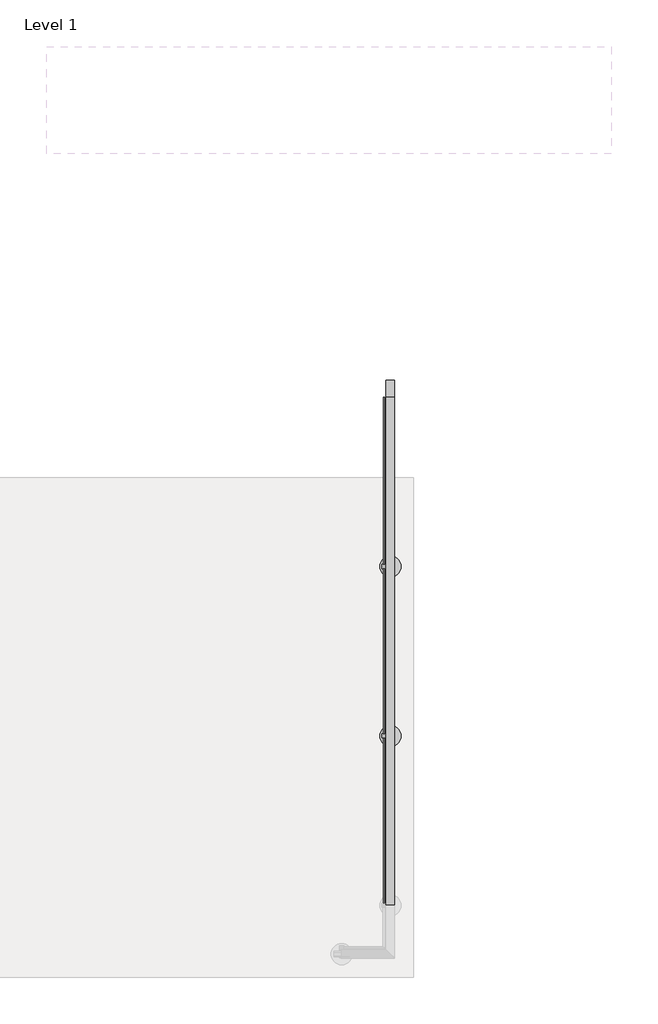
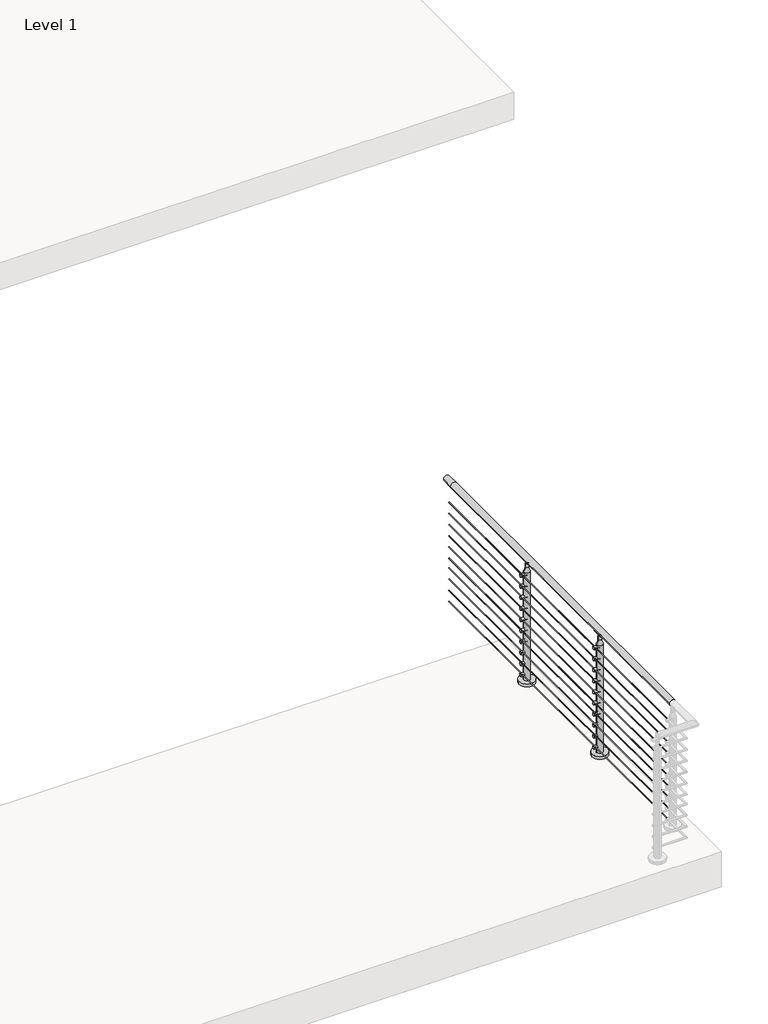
# One storey, part 9 of 21: 1 railing.
"""IFC4 building model written with IfcOpenShell, lengths in millimetres."""

from ifc_helpers import new_model, si_unit, point, frame, frame_2d, origin, origin_with_axes, place, context, project, spatial, polyline, circle_curve, ellipse_curve, trimmed, segment, composite_curve, outline, extrude, element, save
from ifc_brep_helpers import plane_surface, cylinder_surface, revolved_surface, advanced_brep

model = new_model("IFC4")

# Units and contexts
model_context = context("Model", 3, world=origin())
ifc_project = project(units=[si_unit("LENGTHUNIT", "METRE", prefix="MILLI")], contexts=[model_context])

# Site, building, storey
site = spatial("IfcSite", under=ifc_project)
building = spatial("IfcBuilding", under=site)
storey = spatial("IfcBuildingStorey", under=building, Name="Level 1", Elevation=0.0)

# Railing
placement = place(None, origin())
element("IfcRailing", 1, ObjectType="VIVA-CIRCA-Multiline-Cable-Core Mount-Straight", at=placement, inside=storey, context=model_context, shape_type="SolidModel", body=[
    advanced_brep(
    [(69909.4592968, -73352.7943064, 1054.1), (69858.6592968, -73352.7943064, 1054.1), (69909.4592968, -70304.7943064, 1054.1), (69858.6592968, -70304.7943064, 1054.1), (69909.4592968, -70203.1943064, 1054.1), (69858.6592968, -70203.1943064, 1054.1)],
    [
        (0, 1, circle_curve(frame((69884.0592968, -73352.7943064, 1054.1), z_axis=(0.0, -1.0, 0.0), x_axis=(-1.0, 0.0, 0.0)), 25.4)),
        (1, 0, circle_curve(frame((69884.0592968, -73352.7943064, 1054.1), z_axis=(0.0, -1.0, 0.0), x_axis=(-1.0, 0.0, 0.0)), 25.4)),
        (0, 2),
        (2, 3, circle_curve(frame((69884.0592968, -70304.7943064, 1054.1), z_axis=(0.0, -1.0, 0.0), x_axis=(-1.0, 0.0, 0.0)), 25.4)),
        (3, 1),
        (3, 2, circle_curve(frame((69884.0592968, -70304.7943064, 1054.1), z_axis=(0.0, -1.0, 0.0), x_axis=(-1.0, 0.0, 0.0)), 25.4)),
        (4, 5, circle_curve(frame((69884.0592968, -70203.1943064, 1054.1), z_axis=(0.0, 1.0, 0.0), x_axis=(-1.0, 0.0, 0.0)), 25.4)),
        (5, 4, circle_curve(frame((69884.0592968, -70203.1943064, 1054.1), z_axis=(0.0, 1.0, 0.0), x_axis=(-1.0, 0.0, 0.0)), 25.4)),
        (2, 4),
        (5, 3),
    ],
    [
        plane_surface(frame((69884.0592968, -73352.7943064, 1079.5), z_axis=(0.0, -1.0, 0.0), x_axis=(0.0, 0.0, 1.0))),
        cylinder_surface(frame((69884.0592968, -73352.7943064, 1054.1), z_axis=(0.0, -1.0, 0.0), x_axis=(-1.0, 0.0, 0.0)), 25.4),
        plane_surface(frame((69884.0592968, -70203.1943064, 1079.5), z_axis=(0.0, 1.0, 0.0), x_axis=(0.0, 0.0, 1.0))),
        cylinder_surface(frame((69884.0592968, -70304.7943064, 1054.1), z_axis=(0.0, -1.0, 0.0), x_axis=(-1.0, 0.0, 0.0)), 25.4),
    ],
    [
        (0, [[1, 2]]),
        (1, [[-1, 3, 4, 5]]),
        (1, [[-2, -5, 6, -3]]),
        (2, [[7, 8]]),
        (3, [[-4, 9, -8, 10]]),
        (3, [[-6, -10, -7, -9]]),
    ],
),
    extrude(outline(composite_curve([segment(trimmed(circle_curve(frame_2d((924.7124, 69845.9592968)), 2.3876), [point((924.7124, 69843.5716968))], [point((924.7124, 69848.3468968))], False, "CARTESIAN"), True, "CONTINUOUS"), segment(trimmed(circle_curve(frame_2d((924.7124, 69845.9592968)), 2.3876), [point((924.7124, 69848.3468968))], [point((924.7124, 69843.5716968))], False, "CARTESIAN"), True, "CONTINUOUS")], self_intersect=False)), frame((0.0, -73352.7943064, 0.0), z_axis=(0.0, 1.0, 0.0), x_axis=(0.0, 0.0, 1.0)), (0.0, 0.0, 1.0), 3048.0),
    extrude(outline(composite_curve([segment(trimmed(circle_curve(frame_2d((829.4624, 69845.9592968)), 2.3876), [point((829.4624, 69843.5716968))], [point((829.4624, 69848.3468968))], False, "CARTESIAN"), True, "CONTINUOUS"), segment(trimmed(circle_curve(frame_2d((829.4624, 69845.9592968)), 2.3876), [point((829.4624, 69848.3468968))], [point((829.4624, 69843.5716968))], False, "CARTESIAN"), True, "CONTINUOUS")], self_intersect=False)), frame((0.0, -73352.7943064, 0.0), z_axis=(0.0, 1.0, 0.0), x_axis=(0.0, 0.0, 1.0)), (0.0, 0.0, 1.0), 3048.0),
    extrude(outline(composite_curve([segment(trimmed(circle_curve(frame_2d((734.2124, 69845.9592968)), 2.3876), [point((734.2124, 69843.5716968))], [point((734.2124, 69848.3468968))], False, "CARTESIAN"), True, "CONTINUOUS"), segment(trimmed(circle_curve(frame_2d((734.2124, 69845.9592968)), 2.3876), [point((734.2124, 69848.3468968))], [point((734.2124, 69843.5716968))], False, "CARTESIAN"), True, "CONTINUOUS")], self_intersect=False)), frame((0.0, -73352.7943064, 0.0), z_axis=(0.0, 1.0, 0.0), x_axis=(0.0, 0.0, 1.0)), (0.0, 0.0, 1.0), 3048.0),
    extrude(outline(composite_curve([segment(trimmed(circle_curve(frame_2d((638.9624, 69845.9592968)), 2.3876), [point((638.9624, 69843.5716968))], [point((638.9624, 69848.3468968))], False, "CARTESIAN"), True, "CONTINUOUS"), segment(trimmed(circle_curve(frame_2d((638.9624, 69845.9592968)), 2.3876), [point((638.9624, 69848.3468968))], [point((638.9624, 69843.5716968))], False, "CARTESIAN"), True, "CONTINUOUS")], self_intersect=False)), frame((0.0, -73352.7943064, 0.0), z_axis=(0.0, 1.0, 0.0), x_axis=(0.0, 0.0, 1.0)), (0.0, 0.0, 1.0), 3048.0),
    extrude(outline(composite_curve([segment(trimmed(circle_curve(frame_2d((543.7124, 69845.9592968)), 2.3876), [point((543.7124, 69843.5716968))], [point((543.7124, 69848.3468968))], False, "CARTESIAN"), True, "CONTINUOUS"), segment(trimmed(circle_curve(frame_2d((543.7124, 69845.9592968)), 2.3876), [point((543.7124, 69848.3468968))], [point((543.7124, 69843.5716968))], False, "CARTESIAN"), True, "CONTINUOUS")], self_intersect=False)), frame((0.0, -73352.7943064, 0.0), z_axis=(0.0, 1.0, 0.0), x_axis=(0.0, 0.0, 1.0)), (0.0, 0.0, 1.0), 3048.0),
    extrude(outline(composite_curve([segment(trimmed(circle_curve(frame_2d((448.4624, 69845.9592968)), 2.3876), [point((448.4624, 69843.5716968))], [point((448.4624, 69848.3468968))], False, "CARTESIAN"), True, "CONTINUOUS"), segment(trimmed(circle_curve(frame_2d((448.4624, 69845.9592968)), 2.3876), [point((448.4624, 69848.3468968))], [point((448.4624, 69843.5716968))], False, "CARTESIAN"), True, "CONTINUOUS")], self_intersect=False)), frame((0.0, -73352.7943064, 0.0), z_axis=(0.0, 1.0, 0.0), x_axis=(0.0, 0.0, 1.0)), (0.0, 0.0, 1.0), 3048.0),
    extrude(outline(composite_curve([segment(trimmed(circle_curve(frame_2d((365.9124, 69845.9592968)), 2.3876), [point((365.9124, 69843.5716968))], [point((365.9124, 69848.3468968))], False, "CARTESIAN"), True, "CONTINUOUS"), segment(trimmed(circle_curve(frame_2d((365.9124, 69845.9592968)), 2.3876), [point((365.9124, 69848.3468968))], [point((365.9124, 69843.5716968))], False, "CARTESIAN"), True, "CONTINUOUS")], self_intersect=False)), frame((0.0, -73352.7943064, 0.0), z_axis=(0.0, 1.0, 0.0), x_axis=(0.0, 0.0, 1.0)), (0.0, 0.0, 1.0), 3048.0),
    extrude(outline(composite_curve([segment(trimmed(circle_curve(frame_2d((270.6624, 69845.9592968)), 2.3876), [point((270.6624, 69843.5716968))], [point((270.6624, 69848.3468968))], False, "CARTESIAN"), True, "CONTINUOUS"), segment(trimmed(circle_curve(frame_2d((270.6624, 69845.9592968)), 2.3876), [point((270.6624, 69848.3468968))], [point((270.6624, 69843.5716968))], False, "CARTESIAN"), True, "CONTINUOUS")], self_intersect=False)), frame((0.0, -73352.7943064, 0.0), z_axis=(0.0, 1.0, 0.0), x_axis=(0.0, 0.0, 1.0)), (0.0, 0.0, 1.0), 3048.0),
    extrude(outline(composite_curve([segment(trimmed(circle_curve(frame_2d((175.4124, 69845.9592968)), 2.3876), [point((175.4124, 69843.5716968))], [point((175.4124, 69848.3468968))], False, "CARTESIAN"), True, "CONTINUOUS"), segment(trimmed(circle_curve(frame_2d((175.4124, 69845.9592968)), 2.3876), [point((175.4124, 69848.3468968))], [point((175.4124, 69843.5716968))], False, "CARTESIAN"), True, "CONTINUOUS")], self_intersect=False)), frame((0.0, -73352.7943064, 0.0), z_axis=(0.0, 1.0, 0.0), x_axis=(0.0, 0.0, 1.0)), (0.0, 0.0, 1.0), 3048.0),
    extrude(outline(composite_curve([segment(trimmed(circle_curve(frame_2d((80.1624, 69845.9592968)), 2.3876), [point((80.1624, 69843.5716968))], [point((80.1624, 69848.3468968))], False, "CARTESIAN"), True, "CONTINUOUS"), segment(trimmed(circle_curve(frame_2d((80.1624, 69845.9592968)), 2.3876), [point((80.1624, 69848.3468968))], [point((80.1624, 69843.5716968))], False, "CARTESIAN"), True, "CONTINUOUS")], self_intersect=False)), frame((0.0, -73352.7943064, 0.0), z_axis=(0.0, 1.0, 0.0), x_axis=(0.0, 0.0, 1.0)), (0.0, 0.0, 1.0), 3048.0),
    extrude(outline(composite_curve([segment(trimmed(circle_curve(frame_2d((69884.0592968, -71320.3974314)), 63.5), [point((69947.5592968, -71320.3974314))], [point((69820.5592968, -71320.3974314))], False, "CARTESIAN"), True, "CONTINUOUS"), segment(trimmed(circle_curve(frame_2d((69884.0592968, -71320.3974314)), 63.5), [point((69820.5592968, -71320.3974314))], [point((69947.5592968, -71320.3974314))], False, "CARTESIAN"), True, "CONTINUOUS")], self_intersect=False)), origin_with_axes(), (0.0, 0.0, 1.0), 25.4),
    extrude(outline(composite_curve([segment(trimmed(circle_curve(frame_2d((-71320.0005564, 76.2)), 12.666458), [point((-71307.3340985, 76.2))], [point((-71332.6670144, 76.2))], False, "CARTESIAN"), True, "CONTINUOUS"), segment(trimmed(circle_curve(frame_2d((-71320.0005564, 76.2)), 12.666458), [point((-71332.6670144, 76.2))], [point((-71307.3340985, 76.2))], False, "CARTESIAN"), True, "CONTINUOUS")], self_intersect=False)), frame((69833.2592968, 0.0, 0.0), z_axis=(1.0, 0.0, 0.0), x_axis=(0.0, 1.0, 0.0)), (0.0, 0.0, 1.0), 50.8),
    extrude(outline(composite_curve([segment(trimmed(circle_curve(frame_2d((-71320.0005564, 170.0388889)), 12.666458), [point((-71307.3340985, 170.0388889))], [point((-71332.6670144, 170.0388889))], False, "CARTESIAN"), True, "CONTINUOUS"), segment(trimmed(circle_curve(frame_2d((-71320.0005564, 170.0388889)), 12.666458), [point((-71332.6670144, 170.0388889))], [point((-71307.3340985, 170.0388889))], False, "CARTESIAN"), True, "CONTINUOUS")], self_intersect=False)), frame((69833.2592968, 0.0, 0.0), z_axis=(1.0, 0.0, 0.0), x_axis=(0.0, 1.0, 0.0)), (0.0, 0.0, 1.0), 50.8),
    extrude(outline(composite_curve([segment(trimmed(circle_curve(frame_2d((-71320.0005564, 263.8777778)), 12.666458), [point((-71307.3340985, 263.8777778))], [point((-71332.6670144, 263.8777778))], False, "CARTESIAN"), True, "CONTINUOUS"), segment(trimmed(circle_curve(frame_2d((-71320.0005564, 263.8777778)), 12.666458), [point((-71332.6670144, 263.8777778))], [point((-71307.3340985, 263.8777778))], False, "CARTESIAN"), True, "CONTINUOUS")], self_intersect=False)), frame((69833.2592968, 0.0, 0.0), z_axis=(1.0, 0.0, 0.0), x_axis=(0.0, 1.0, 0.0)), (0.0, 0.0, 1.0), 50.8),
    extrude(outline(composite_curve([segment(trimmed(circle_curve(frame_2d((-71320.0005564, 357.7166667)), 12.666458), [point((-71307.3340985, 357.7166667))], [point((-71332.6670144, 357.7166667))], False, "CARTESIAN"), True, "CONTINUOUS"), segment(trimmed(circle_curve(frame_2d((-71320.0005564, 357.7166667)), 12.666458), [point((-71332.6670144, 357.7166667))], [point((-71307.3340985, 357.7166667))], False, "CARTESIAN"), True, "CONTINUOUS")], self_intersect=False)), frame((69833.2592968, 0.0, 0.0), z_axis=(1.0, 0.0, 0.0), x_axis=(0.0, 1.0, 0.0)), (0.0, 0.0, 1.0), 50.8),
    extrude(outline(composite_curve([segment(trimmed(circle_curve(frame_2d((-71320.0005564, 451.5555556)), 12.666458), [point((-71307.3340985, 451.5555556))], [point((-71332.6670144, 451.5555556))], False, "CARTESIAN"), True, "CONTINUOUS"), segment(trimmed(circle_curve(frame_2d((-71320.0005564, 451.5555556)), 12.666458), [point((-71332.6670144, 451.5555556))], [point((-71307.3340985, 451.5555556))], False, "CARTESIAN"), True, "CONTINUOUS")], self_intersect=False)), frame((69833.2592968, 0.0, 0.0), z_axis=(1.0, 0.0, 0.0), x_axis=(0.0, 1.0, 0.0)), (0.0, 0.0, 1.0), 50.8),
    extrude(outline(composite_curve([segment(trimmed(circle_curve(frame_2d((-71320.0005564, 545.3944444)), 12.666458), [point((-71307.3340985, 545.3944444))], [point((-71332.6670144, 545.3944444))], False, "CARTESIAN"), True, "CONTINUOUS"), segment(trimmed(circle_curve(frame_2d((-71320.0005564, 545.3944444)), 12.666458), [point((-71332.6670144, 545.3944444))], [point((-71307.3340985, 545.3944444))], False, "CARTESIAN"), True, "CONTINUOUS")], self_intersect=False)), frame((69833.2592968, 0.0, 0.0), z_axis=(1.0, 0.0, 0.0), x_axis=(0.0, 1.0, 0.0)), (0.0, 0.0, 1.0), 50.8),
    extrude(outline(composite_curve([segment(trimmed(circle_curve(frame_2d((-71320.0005564, 639.2333333)), 12.666458), [point((-71307.3340985, 639.2333333))], [point((-71332.6670144, 639.2333333))], False, "CARTESIAN"), True, "CONTINUOUS"), segment(trimmed(circle_curve(frame_2d((-71320.0005564, 639.2333333)), 12.666458), [point((-71332.6670144, 639.2333333))], [point((-71307.3340985, 639.2333333))], False, "CARTESIAN"), True, "CONTINUOUS")], self_intersect=False)), frame((69833.2592968, 0.0, 0.0), z_axis=(1.0, 0.0, 0.0), x_axis=(0.0, 1.0, 0.0)), (0.0, 0.0, 1.0), 50.8),
    extrude(outline(composite_curve([segment(trimmed(circle_curve(frame_2d((-71320.0005564, 733.0722222)), 12.666458), [point((-71307.3340985, 733.0722222))], [point((-71332.6670144, 733.0722222))], False, "CARTESIAN"), True, "CONTINUOUS"), segment(trimmed(circle_curve(frame_2d((-71320.0005564, 733.0722222)), 12.666458), [point((-71332.6670144, 733.0722222))], [point((-71307.3340985, 733.0722222))], False, "CARTESIAN"), True, "CONTINUOUS")], self_intersect=False)), frame((69833.2592968, 0.0, 0.0), z_axis=(1.0, 0.0, 0.0), x_axis=(0.0, 1.0, 0.0)), (0.0, 0.0, 1.0), 50.8),
    extrude(outline(composite_curve([segment(trimmed(circle_curve(frame_2d((-71320.0005564, 920.75)), 12.666458), [point((-71307.3340985, 920.75))], [point((-71332.6670144, 920.75))], False, "CARTESIAN"), True, "CONTINUOUS"), segment(trimmed(circle_curve(frame_2d((-71320.0005564, 920.75)), 12.666458), [point((-71332.6670144, 920.75))], [point((-71307.3340985, 920.75))], False, "CARTESIAN"), True, "CONTINUOUS")], self_intersect=False)), frame((69833.2592968, 0.0, 0.0), z_axis=(1.0, 0.0, 0.0), x_axis=(0.0, 1.0, 0.0)), (0.0, 0.0, 1.0), 50.8),
    extrude(outline(composite_curve([segment(trimmed(circle_curve(frame_2d((-71320.0005564, 826.9111111)), 12.666458), [point((-71307.3340985, 826.9111111))], [point((-71332.6670144, 826.9111111))], False, "CARTESIAN"), True, "CONTINUOUS"), segment(trimmed(circle_curve(frame_2d((-71320.0005564, 826.9111111)), 12.666458), [point((-71332.6670144, 826.9111111))], [point((-71307.3340985, 826.9111111))], False, "CARTESIAN"), True, "CONTINUOUS")], self_intersect=False)), frame((69833.2592968, 0.0, 0.0), z_axis=(1.0, 0.0, 0.0), x_axis=(0.0, 1.0, 0.0)), (0.0, 0.0, 1.0), 50.8),
    extrude(outline(composite_curve([segment(trimmed(circle_curve(frame_2d((1055.4254922, 69883.9625684)), 25.4345159), [point((1033.3106679, 69896.5263713))], [point((1033.2157471, 69871.5673346))], True, "CARTESIAN"), True, "CONTINUOUS"), segment(trimmed(circle_curve(frame_2d((1030.7132623, 69870.3226815)), 2.7949225), [point((1033.2157471, 69871.5673346))], [point((1028.3406769, 69868.8453764))], False, "CARTESIAN"), True, "CONTINUOUS"), segment(trimmed(circle_curve(frame_2d((1056.1881188, 69884.0960315)), 31.75), [point((1028.3406769, 69868.8453764))], [point((1028.9214354, 69900.3622687))], False, "CARTESIAN"), True, "CONTINUOUS"), segment(trimmed(circle_curve(frame_2d((1030.7923545, 69898.073929)), 2.9558141), [point((1028.9214354, 69900.3622687))], [point((1033.3106679, 69896.5263713))], False, "CARTESIAN"), True, "CONTINUOUS")], self_intersect=False)), frame((0.0, -71365.6348314, 0.0), z_axis=(0.0, 1.0, 0.0), x_axis=(0.0, 0.0, 1.0)), (0.0, 0.0, 1.0), 90.4748),
    extrude(outline(composite_curve([segment(trimmed(circle_curve(frame_2d((-71293.3295165, 1010.282776)), 14.3679149), [point((-71293.3295165, 1024.6506908))], [point((-71307.6974314, 1010.282776))], True, "CARTESIAN"), True, "CONTINUOUS"), segment(trimmed(circle_curve(frame_2d((-71320.3974314, 1010.282776)), 12.7), [point((-71307.6974314, 1010.282776))], [point((-71333.0974314, 1010.282776))], False, "CARTESIAN"), True, "CONTINUOUS"), segment(trimmed(circle_curve(frame_2d((-71347.4653463, 1010.282776)), 14.3679149), [point((-71333.0974314, 1010.282776))], [point((-71347.4653463, 1024.6506908))], True, "CARTESIAN"), True, "CONTINUOUS"), segment(polyline([(-71347.4653463, 1024.6506908), (-71293.3295165, 1024.6506908)]), True, "CONTINUOUS")], self_intersect=False)), frame((69881.5192968, 0.0, 0.0), z_axis=(1.0, 0.0, 0.0), x_axis=(0.0, 1.0, 0.0)), (0.0, 0.0, 1.0), 5.08),
    advanced_brep(
    [(69909.4586946, -71320.3974314, 941.1347854), (69858.659899, -71320.3974314, 941.1347854), (69858.659899, -71320.3974314, -88.9), (69909.4586946, -71320.3974314, -88.9), (69896.7972653, -71320.3974314, 979.3486202), (69871.3213282, -71320.3974314, 979.3486202), (69896.7972653, -71320.3974314, 1008.5779599), (69871.3213282, -71320.3974314, 1008.5779599), (69884.0592968, -71320.3974314, 1015.238668), (69884.0592968, -71320.3974314, -88.9)],
    [
        (0, 1, circle_curve(frame((69884.0592968, -71320.3974314, 941.1347854), z_axis=(0.0, 0.0, -1.0), x_axis=(-1.0, 0.0, 0.0)), 25.3993978)),
        (1, 2),
        (2, 3, circle_curve(frame((69884.0592968, -71320.3974314, -88.9), z_axis=(0.0, 0.0, 1.0), x_axis=(-1.0, 0.0, 0.0)), 25.3993978)),
        (3, 0),
        (1, 0, circle_curve(frame((69884.0592968, -71320.3974314, 941.1347854), z_axis=(0.0, 0.0, -1.0), x_axis=(-1.0, 0.0, 0.0)), 25.3993978)),
        (3, 2, circle_curve(frame((69884.0592968, -71320.3974314, -88.9), z_axis=(0.0, 0.0, 1.0), x_axis=(-1.0, 0.0, 0.0)), 25.3993978)),
        (4, 5, circle_curve(frame((69884.0592968, -71320.3974314, 979.3486202), z_axis=(0.0, 0.0, -1.0), x_axis=(-1.0, 0.0, 0.0)), 12.7379685)),
        (5, 1, circle_curve(frame((69807.3234599, -71320.3974314, 979.3486202), z_axis=(0.0, 1.0, 0.0), x_axis=(-1.0, 0.0, 0.0)), 63.9978683)),
        (0, 4, circle_curve(frame((69960.7951336, -71320.3974314, 979.3486202), z_axis=(0.0, 1.0, 0.0), x_axis=(1.0, 0.0, 0.0)), 63.9978683)),
        (5, 4, circle_curve(frame((69884.0592968, -71320.3974314, 979.3486202), z_axis=(0.0, 0.0, -1.0), x_axis=(-1.0, 0.0, 0.0)), 12.7379685)),
        (6, 7, circle_curve(frame((69884.0592968, -71320.3974314, 1008.5779599), z_axis=(0.0, 0.0, -1.0), x_axis=(-1.0, 0.0, 0.0)), 12.7379685)),
        (7, 5),
        (4, 6),
        (7, 6, circle_curve(frame((69884.0592968, -71320.3974314, 1008.5779599), z_axis=(0.0, 0.0, -1.0), x_axis=(-1.0, 0.0, 0.0)), 12.7379685)),
        (8, 7, circle_curve(frame((69884.0592968, -71320.3974314, 999.7282394), z_axis=(0.0, -1.0, 0.0), x_axis=(-1.0, 0.0, 0.0)), 15.5104286)),
        (6, 8, circle_curve(frame((69884.0592968, -71320.3974314, 999.7282394), z_axis=(0.0, -1.0, 0.0), x_axis=(1.0, 0.0, 0.0)), 15.5104286)),
        (2, 9),
        (9, 3),
    ],
    [
        cylinder_surface(frame((69884.0592968, -71320.3974314, 1104.9), z_axis=(0.0, 0.0, 1.0), x_axis=(-1.0, 0.0, 0.0)), 25.3993978),
        revolved_surface(trimmed(ellipse_curve(frame((69807.3234599, -71320.3974314, 979.3486202), z_axis=(0.0, -1.0, 0.0), x_axis=(-1.0, 0.0, 0.0)), 63.9978683, 63.9978683), [point((69858.659899, -71320.3974314, 941.1347854))], [point((69871.3213282, -71320.3974314, 979.3486202))], True, "CARTESIAN"), (69884.0592968, -71320.3974314, 1104.9), (0.0, 0.0, 1.0)),
        cylinder_surface(frame((69884.0592968, -71320.3974314, 1104.9), z_axis=(0.0, 0.0, 1.0), x_axis=(-1.0, 0.0, 0.0)), 12.7379685),
        revolved_surface(trimmed(ellipse_curve(frame((69884.0592968, -71320.3974314, 999.7282394), z_axis=(0.0, 1.0, 0.0), x_axis=(-1.0, 0.0, 0.0)), 15.5104286, 15.5104286), [point((69871.3213282, -71320.3974314, 1008.5779599))], [point((69884.0592968, -71320.3974314, 1015.238668))], True, "CARTESIAN"), (69884.0592968, -71320.3974314, 1104.9), (0.0, 0.0, 1.0)),
        plane_surface(frame((69884.0592968, -71320.3974314, -88.9), z_axis=(0.0, 0.0, -1.0), x_axis=(-1.0, 0.0, 0.0))),
    ],
    [
        (0, [[1, 2, 3, 4]]),
        (0, [[5, -4, 6, -2]]),
        (1, [[7, 8, -1, 9]]),
        (1, [[10, -9, -5, -8]]),
        (2, [[11, 12, -7, 13]]),
        (2, [[14, -13, -10, -12]]),
        (3, [[15, -11, 16]]),
        (3, [[-16, -14, -15]]),
        (4, [[-3, 17, 18]]),
        (4, [[-6, -18, -17]]),
    ],
),
    extrude(outline(composite_curve([segment(trimmed(circle_curve(frame_2d((69884.0592968, -72336.3974314)), 63.5), [point((69947.5592968, -72336.3974314))], [point((69820.5592968, -72336.3974314))], False, "CARTESIAN"), True, "CONTINUOUS"), segment(trimmed(circle_curve(frame_2d((69884.0592968, -72336.3974314)), 63.5), [point((69820.5592968, -72336.3974314))], [point((69947.5592968, -72336.3974314))], False, "CARTESIAN"), True, "CONTINUOUS")], self_intersect=False)), origin_with_axes(), (0.0, 0.0, 1.0), 25.4),
    extrude(outline(composite_curve([segment(trimmed(circle_curve(frame_2d((-72336.0005564, 76.2)), 12.666458), [point((-72323.3340985, 76.2))], [point((-72348.6670144, 76.2))], False, "CARTESIAN"), True, "CONTINUOUS"), segment(trimmed(circle_curve(frame_2d((-72336.0005564, 76.2)), 12.666458), [point((-72348.6670144, 76.2))], [point((-72323.3340985, 76.2))], False, "CARTESIAN"), True, "CONTINUOUS")], self_intersect=False)), frame((69833.2592968, 0.0, 0.0), z_axis=(1.0, 0.0, 0.0), x_axis=(0.0, 1.0, 0.0)), (0.0, 0.0, 1.0), 50.8),
    extrude(outline(composite_curve([segment(trimmed(circle_curve(frame_2d((-72336.0005564, 170.0388889)), 12.666458), [point((-72323.3340985, 170.0388889))], [point((-72348.6670144, 170.0388889))], False, "CARTESIAN"), True, "CONTINUOUS"), segment(trimmed(circle_curve(frame_2d((-72336.0005564, 170.0388889)), 12.666458), [point((-72348.6670144, 170.0388889))], [point((-72323.3340985, 170.0388889))], False, "CARTESIAN"), True, "CONTINUOUS")], self_intersect=False)), frame((69833.2592968, 0.0, 0.0), z_axis=(1.0, 0.0, 0.0), x_axis=(0.0, 1.0, 0.0)), (0.0, 0.0, 1.0), 50.8),
    extrude(outline(composite_curve([segment(trimmed(circle_curve(frame_2d((-72336.0005564, 263.8777778)), 12.666458), [point((-72323.3340985, 263.8777778))], [point((-72348.6670144, 263.8777778))], False, "CARTESIAN"), True, "CONTINUOUS"), segment(trimmed(circle_curve(frame_2d((-72336.0005564, 263.8777778)), 12.666458), [point((-72348.6670144, 263.8777778))], [point((-72323.3340985, 263.8777778))], False, "CARTESIAN"), True, "CONTINUOUS")], self_intersect=False)), frame((69833.2592968, 0.0, 0.0), z_axis=(1.0, 0.0, 0.0), x_axis=(0.0, 1.0, 0.0)), (0.0, 0.0, 1.0), 50.8),
    extrude(outline(composite_curve([segment(trimmed(circle_curve(frame_2d((-72336.0005564, 357.7166667)), 12.666458), [point((-72323.3340985, 357.7166667))], [point((-72348.6670144, 357.7166667))], False, "CARTESIAN"), True, "CONTINUOUS"), segment(trimmed(circle_curve(frame_2d((-72336.0005564, 357.7166667)), 12.666458), [point((-72348.6670144, 357.7166667))], [point((-72323.3340985, 357.7166667))], False, "CARTESIAN"), True, "CONTINUOUS")], self_intersect=False)), frame((69833.2592968, 0.0, 0.0), z_axis=(1.0, 0.0, 0.0), x_axis=(0.0, 1.0, 0.0)), (0.0, 0.0, 1.0), 50.8),
    extrude(outline(composite_curve([segment(trimmed(circle_curve(frame_2d((-72336.0005564, 451.5555556)), 12.666458), [point((-72323.3340985, 451.5555556))], [point((-72348.6670144, 451.5555556))], False, "CARTESIAN"), True, "CONTINUOUS"), segment(trimmed(circle_curve(frame_2d((-72336.0005564, 451.5555556)), 12.666458), [point((-72348.6670144, 451.5555556))], [point((-72323.3340985, 451.5555556))], False, "CARTESIAN"), True, "CONTINUOUS")], self_intersect=False)), frame((69833.2592968, 0.0, 0.0), z_axis=(1.0, 0.0, 0.0), x_axis=(0.0, 1.0, 0.0)), (0.0, 0.0, 1.0), 50.8),
    extrude(outline(composite_curve([segment(trimmed(circle_curve(frame_2d((-72336.0005564, 545.3944444)), 12.666458), [point((-72323.3340985, 545.3944444))], [point((-72348.6670144, 545.3944444))], False, "CARTESIAN"), True, "CONTINUOUS"), segment(trimmed(circle_curve(frame_2d((-72336.0005564, 545.3944444)), 12.666458), [point((-72348.6670144, 545.3944444))], [point((-72323.3340985, 545.3944444))], False, "CARTESIAN"), True, "CONTINUOUS")], self_intersect=False)), frame((69833.2592968, 0.0, 0.0), z_axis=(1.0, 0.0, 0.0), x_axis=(0.0, 1.0, 0.0)), (0.0, 0.0, 1.0), 50.8),
    extrude(outline(composite_curve([segment(trimmed(circle_curve(frame_2d((-72336.0005564, 639.2333333)), 12.666458), [point((-72323.3340985, 639.2333333))], [point((-72348.6670144, 639.2333333))], False, "CARTESIAN"), True, "CONTINUOUS"), segment(trimmed(circle_curve(frame_2d((-72336.0005564, 639.2333333)), 12.666458), [point((-72348.6670144, 639.2333333))], [point((-72323.3340985, 639.2333333))], False, "CARTESIAN"), True, "CONTINUOUS")], self_intersect=False)), frame((69833.2592968, 0.0, 0.0), z_axis=(1.0, 0.0, 0.0), x_axis=(0.0, 1.0, 0.0)), (0.0, 0.0, 1.0), 50.8),
    extrude(outline(composite_curve([segment(trimmed(circle_curve(frame_2d((-72336.0005564, 733.0722222)), 12.666458), [point((-72323.3340985, 733.0722222))], [point((-72348.6670144, 733.0722222))], False, "CARTESIAN"), True, "CONTINUOUS"), segment(trimmed(circle_curve(frame_2d((-72336.0005564, 733.0722222)), 12.666458), [point((-72348.6670144, 733.0722222))], [point((-72323.3340985, 733.0722222))], False, "CARTESIAN"), True, "CONTINUOUS")], self_intersect=False)), frame((69833.2592968, 0.0, 0.0), z_axis=(1.0, 0.0, 0.0), x_axis=(0.0, 1.0, 0.0)), (0.0, 0.0, 1.0), 50.8),
    extrude(outline(composite_curve([segment(trimmed(circle_curve(frame_2d((-72336.0005564, 920.75)), 12.666458), [point((-72323.3340985, 920.75))], [point((-72348.6670144, 920.75))], False, "CARTESIAN"), True, "CONTINUOUS"), segment(trimmed(circle_curve(frame_2d((-72336.0005564, 920.75)), 12.666458), [point((-72348.6670144, 920.75))], [point((-72323.3340985, 920.75))], False, "CARTESIAN"), True, "CONTINUOUS")], self_intersect=False)), frame((69833.2592968, 0.0, 0.0), z_axis=(1.0, 0.0, 0.0), x_axis=(0.0, 1.0, 0.0)), (0.0, 0.0, 1.0), 50.8),
    extrude(outline(composite_curve([segment(trimmed(circle_curve(frame_2d((-72336.0005564, 826.9111111)), 12.666458), [point((-72323.3340985, 826.9111111))], [point((-72348.6670144, 826.9111111))], False, "CARTESIAN"), True, "CONTINUOUS"), segment(trimmed(circle_curve(frame_2d((-72336.0005564, 826.9111111)), 12.666458), [point((-72348.6670144, 826.9111111))], [point((-72323.3340985, 826.9111111))], False, "CARTESIAN"), True, "CONTINUOUS")], self_intersect=False)), frame((69833.2592968, 0.0, 0.0), z_axis=(1.0, 0.0, 0.0), x_axis=(0.0, 1.0, 0.0)), (0.0, 0.0, 1.0), 50.8),
    extrude(outline(composite_curve([segment(trimmed(circle_curve(frame_2d((1055.4254922, 69883.9625684)), 25.4345159), [point((1033.3106679, 69896.5263713))], [point((1033.2157471, 69871.5673346))], True, "CARTESIAN"), True, "CONTINUOUS"), segment(trimmed(circle_curve(frame_2d((1030.7132623, 69870.3226815)), 2.7949225), [point((1033.2157471, 69871.5673346))], [point((1028.3406769, 69868.8453764))], False, "CARTESIAN"), True, "CONTINUOUS"), segment(trimmed(circle_curve(frame_2d((1056.1881188, 69884.0960315)), 31.75), [point((1028.3406769, 69868.8453764))], [point((1028.9214354, 69900.3622687))], False, "CARTESIAN"), True, "CONTINUOUS"), segment(trimmed(circle_curve(frame_2d((1030.7923545, 69898.073929)), 2.9558141), [point((1028.9214354, 69900.3622687))], [point((1033.3106679, 69896.5263713))], False, "CARTESIAN"), True, "CONTINUOUS")], self_intersect=False)), frame((0.0, -72381.6348314, 0.0), z_axis=(0.0, 1.0, 0.0), x_axis=(0.0, 0.0, 1.0)), (0.0, 0.0, 1.0), 90.4748),
    extrude(outline(composite_curve([segment(trimmed(circle_curve(frame_2d((-72309.3295165, 1010.282776)), 14.3679149), [point((-72309.3295165, 1024.6506908))], [point((-72323.6974314, 1010.282776))], True, "CARTESIAN"), True, "CONTINUOUS"), segment(trimmed(circle_curve(frame_2d((-72336.3974314, 1010.282776)), 12.7), [point((-72323.6974314, 1010.282776))], [point((-72349.0974314, 1010.282776))], False, "CARTESIAN"), True, "CONTINUOUS"), segment(trimmed(circle_curve(frame_2d((-72363.4653463, 1010.282776)), 14.3679149), [point((-72349.0974314, 1010.282776))], [point((-72363.4653463, 1024.6506908))], True, "CARTESIAN"), True, "CONTINUOUS"), segment(polyline([(-72363.4653463, 1024.6506908), (-72309.3295165, 1024.6506908)]), True, "CONTINUOUS")], self_intersect=False)), frame((69881.5192968, 0.0, 0.0), z_axis=(1.0, 0.0, 0.0), x_axis=(0.0, 1.0, 0.0)), (0.0, 0.0, 1.0), 5.08),
    advanced_brep(
    [(69909.4586946, -72336.3974314, 941.1347854), (69858.659899, -72336.3974314, 941.1347854), (69858.659899, -72336.3974314, -88.9), (69909.4586946, -72336.3974314, -88.9), (69896.7972653, -72336.3974314, 979.3486202), (69871.3213282, -72336.3974314, 979.3486202), (69896.7972653, -72336.3974314, 1008.5779599), (69871.3213282, -72336.3974314, 1008.5779599), (69884.0592968, -72336.3974314, 1015.238668), (69884.0592968, -72336.3974314, -88.9)],
    [
        (0, 1, circle_curve(frame((69884.0592968, -72336.3974314, 941.1347854), z_axis=(0.0, 0.0, -1.0), x_axis=(-1.0, 0.0, 0.0)), 25.3993978)),
        (1, 2),
        (2, 3, circle_curve(frame((69884.0592968, -72336.3974314, -88.9), z_axis=(0.0, 0.0, 1.0), x_axis=(-1.0, 0.0, 0.0)), 25.3993978)),
        (3, 0),
        (1, 0, circle_curve(frame((69884.0592968, -72336.3974314, 941.1347854), z_axis=(0.0, 0.0, -1.0), x_axis=(-1.0, 0.0, 0.0)), 25.3993978)),
        (3, 2, circle_curve(frame((69884.0592968, -72336.3974314, -88.9), z_axis=(0.0, 0.0, 1.0), x_axis=(-1.0, 0.0, 0.0)), 25.3993978)),
        (4, 5, circle_curve(frame((69884.0592968, -72336.3974314, 979.3486202), z_axis=(0.0, 0.0, -1.0), x_axis=(-1.0, 0.0, 0.0)), 12.7379685)),
        (5, 1, circle_curve(frame((69807.3234599, -72336.3974314, 979.3486202), z_axis=(0.0, 1.0, 0.0), x_axis=(-1.0, 0.0, 0.0)), 63.9978683)),
        (0, 4, circle_curve(frame((69960.7951336, -72336.3974314, 979.3486202), z_axis=(0.0, 1.0, 0.0), x_axis=(1.0, 0.0, 0.0)), 63.9978683)),
        (5, 4, circle_curve(frame((69884.0592968, -72336.3974314, 979.3486202), z_axis=(0.0, 0.0, -1.0), x_axis=(-1.0, 0.0, 0.0)), 12.7379685)),
        (6, 7, circle_curve(frame((69884.0592968, -72336.3974314, 1008.5779599), z_axis=(0.0, 0.0, -1.0), x_axis=(-1.0, 0.0, 0.0)), 12.7379685)),
        (7, 5),
        (4, 6),
        (7, 6, circle_curve(frame((69884.0592968, -72336.3974314, 1008.5779599), z_axis=(0.0, 0.0, -1.0), x_axis=(-1.0, 0.0, 0.0)), 12.7379685)),
        (8, 7, circle_curve(frame((69884.0592968, -72336.3974314, 999.7282394), z_axis=(0.0, -1.0, 0.0), x_axis=(-1.0, 0.0, 0.0)), 15.5104286)),
        (6, 8, circle_curve(frame((69884.0592968, -72336.3974314, 999.7282394), z_axis=(0.0, -1.0, 0.0), x_axis=(1.0, 0.0, 0.0)), 15.5104286)),
        (2, 9),
        (9, 3),
    ],
    [
        cylinder_surface(frame((69884.0592968, -72336.3974314, 1104.9), z_axis=(0.0, 0.0, 1.0), x_axis=(-1.0, 0.0, 0.0)), 25.3993978),
        revolved_surface(trimmed(ellipse_curve(frame((69807.3234599, -72336.3974314, 979.3486202), z_axis=(0.0, -1.0, 0.0), x_axis=(-1.0, 0.0, 0.0)), 63.9978683, 63.9978683), [point((69858.659899, -72336.3974314, 941.1347854))], [point((69871.3213282, -72336.3974314, 979.3486202))], True, "CARTESIAN"), (69884.0592968, -72336.3974314, 1104.9), (0.0, 0.0, 1.0)),
        cylinder_surface(frame((69884.0592968, -72336.3974314, 1104.9), z_axis=(0.0, 0.0, 1.0), x_axis=(-1.0, 0.0, 0.0)), 12.7379685),
        revolved_surface(trimmed(ellipse_curve(frame((69884.0592968, -72336.3974314, 999.7282394), z_axis=(0.0, 1.0, 0.0), x_axis=(-1.0, 0.0, 0.0)), 15.5104286, 15.5104286), [point((69871.3213282, -72336.3974314, 1008.5779599))], [point((69884.0592968, -72336.3974314, 1015.238668))], True, "CARTESIAN"), (69884.0592968, -72336.3974314, 1104.9), (0.0, 0.0, 1.0)),
        plane_surface(frame((69884.0592968, -72336.3974314, -88.9), z_axis=(0.0, 0.0, -1.0), x_axis=(-1.0, 0.0, 0.0))),
    ],
    [
        (0, [[1, 2, 3, 4]]),
        (0, [[5, -4, 6, -2]]),
        (1, [[7, 8, -1, 9]]),
        (1, [[10, -9, -5, -8]]),
        (2, [[11, 12, -7, 13]]),
        (2, [[14, -13, -10, -12]]),
        (3, [[15, -11, 16]]),
        (3, [[-16, -14, -15]]),
        (4, [[-3, 17, 18]]),
        (4, [[-6, -18, -17]]),
    ],
),
])

save(model, "model.ifc")
